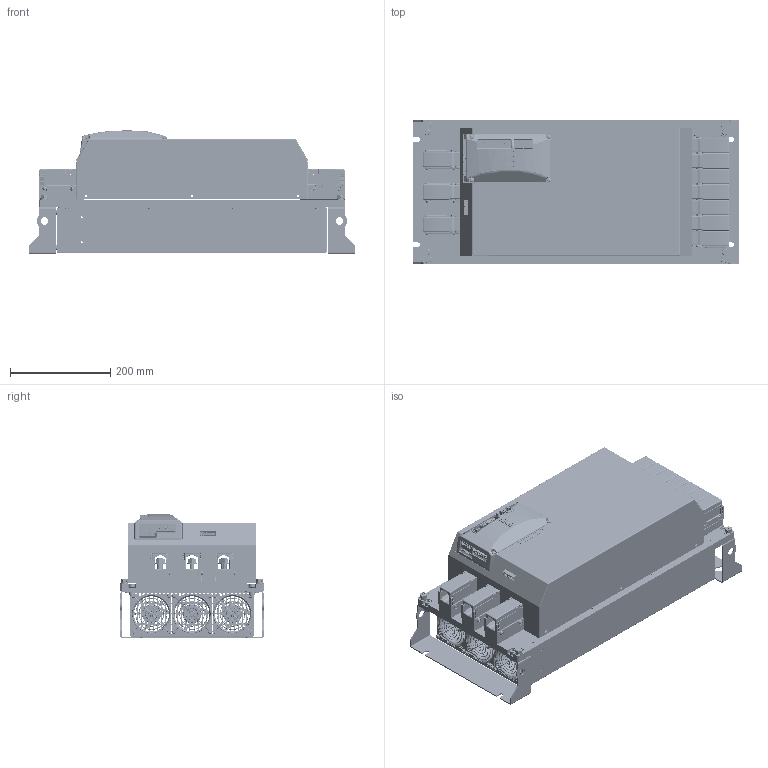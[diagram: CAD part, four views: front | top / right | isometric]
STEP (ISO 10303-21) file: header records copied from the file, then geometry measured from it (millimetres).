
FILE_DESCRIPTION((''),'2;1');
FILE_NAME('61815N-0_ASM','2022-03-02T',('lichensong'),(''),'PRO/ENGINEER BY PARAMETRIC TECHNOLOGY CORPORATION, 2010430','PRO/ENGINEER BY PARAMETRIC TECHNOLOGY CORPORATION, 2010430','');
FILE_SCHEMA(('AUTOMOTIVE_DESIGN_CC2 { 1 2 10303 214 -1 1 5 2 }'));
Products named in the file (120): 61724N-0; 60940N-1; 8214JH3; SILICONE_WASHER; M4X50_GBT70-1; FAN_COVER; 60941N-0_ASM; 60940N-0_ASM; 60949N-1; PEM_S_M8-2; 60949N-0_ASM; 60950N-1; 60950N-0_ASM; M8X16_GBT70-1; GBT818-2000-M4; 61074N-0_ASM; 60667N-0; CONTROL_PLATE; CONNETTORE-CAN; CONNETTORE-CAN1; CONN_ENC; TASTO_SETUP; PRT0002; PRT0003; ASM0001_ASM; MTMM_120-03-S-D-160_ASM; MCD_0_5-12-G1-2_5-444420; 1894901_ASM; 06R2; 0470; PRT0002_AF2; PRT0003_AF0; PRT0003_AF1; PRT0003_AF2; PRT0003_AF3; PRT0003_AF4; PRT0003_AF10; PRT0003_AF11; PRT0003_AF12; PRT0003_AF13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
Assembly tree (333 placements, depth 7):
  61815N-0_ASM
    61724N-0
    60940N-0_ASM
      60940N-1
      60941N-0_ASM
        8214JH3  x3
        SILICONE_WASHER  x12
        M4X50_GBT70-1  x12
        FAN_COVER  x3
    60949N-0_ASM
      60949N-1
      PEM_S_M8-2  x2
    60950N-0_ASM
      60950N-1
      PEM_S_M8-2  x2
    M8X16_GBT70-1  x4
    GBT818-2000-M4  x8
    61074N-0_ASM  x2
    POWERBOARDASM_ASM
      61073N-0_ASM
        60667N-0
        50544N-0_ASM
          CONTROL_PLATE
          CONNETTORE-CAN
          CONNETTORE-CAN1
          CONN_ENC
          TASTO_SETUP  x3
          MTMM_120-03-S-D-160_ASM
            ASM0001_ASM
              PRT0002
              PRT0003  x40
          1894901_ASM
            MCD_0_5-12-G1-2_5-444420
          06R2
          0470  x2
          MTMM_110-03-S-D-160_ASM
            ASM0001_AF0_ASM
              PRT0002_AF2
              PRT0003  x20
              PRT0003_AF0
              PRT0003_AF1
              PRT0003_AF2
              PRT0003_AF3
              PRT0003_AF4
              PRT0003_AF10
              PRT0003_AF11
              PRT0003_AF12
              PRT0003_AF13
              PRT0003_AF14
              PRT0003_AF5
              PRT0003_AF6
              PRT0003_AF7
              PRT0003_AF8
              PRT0003_AF9
              PRT0003_AF15
              PRT0003_AF16
              PRT0003_AF17
              PRT0003_AF18
              PRT0003_AF19
          530470810  x2
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Bounding box: 652 x 286 x 249.21 mm (x, y, z)
Volume: 6053012.8 mm3; surface area: 5696724.6 mm2
Topology: 309 solids, 396 shells, 26237 faces, 67890 edges, 42616 vertices
Faces by surface type: plane 13560, cylinder 8776, torus 1595, cone 1057, bspline 825, sphere 424
Entity records: 442574 total; most frequent: CARTESIAN_POINT 74104, DIRECTION 54679, ORIENTED_EDGE 53924, PRESENTATION_STYLE_ASSIGNMENT 29953, STYLED_ITEM 27274, CURVE_STYLE 27132, EDGE_CURVE 27132, VECTOR 19457
